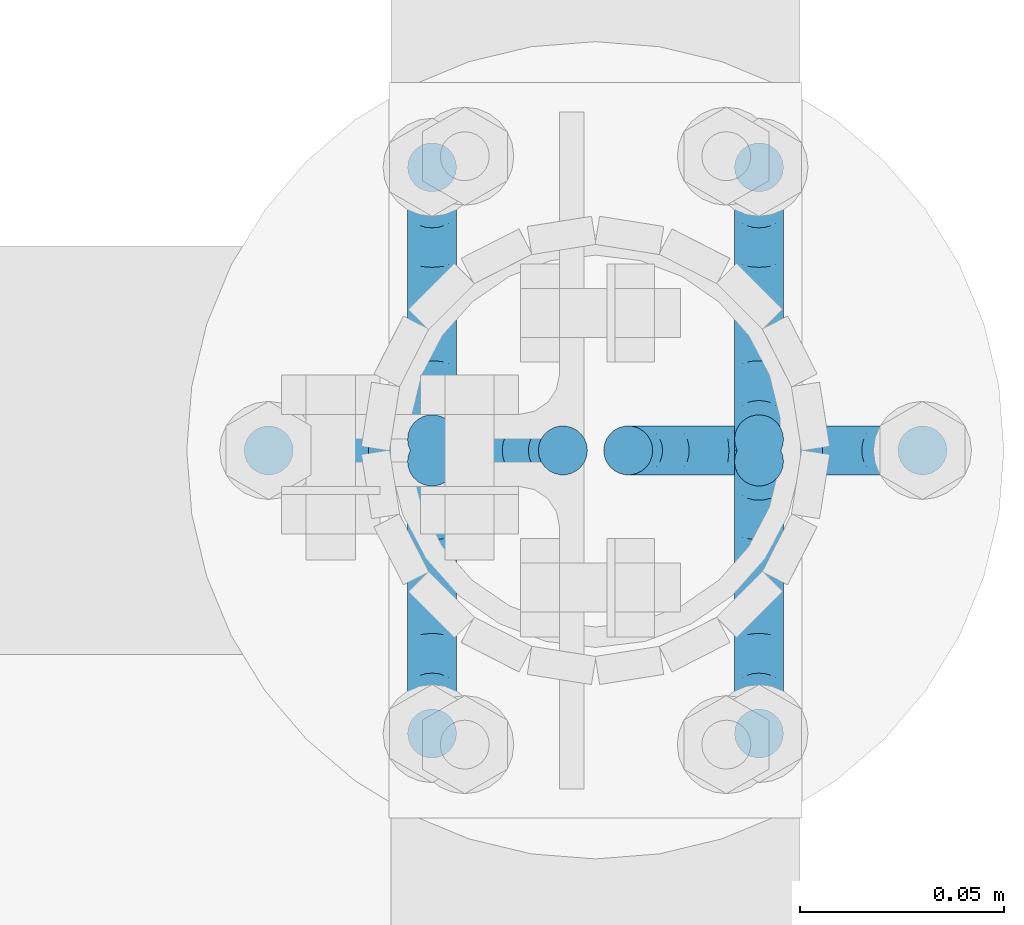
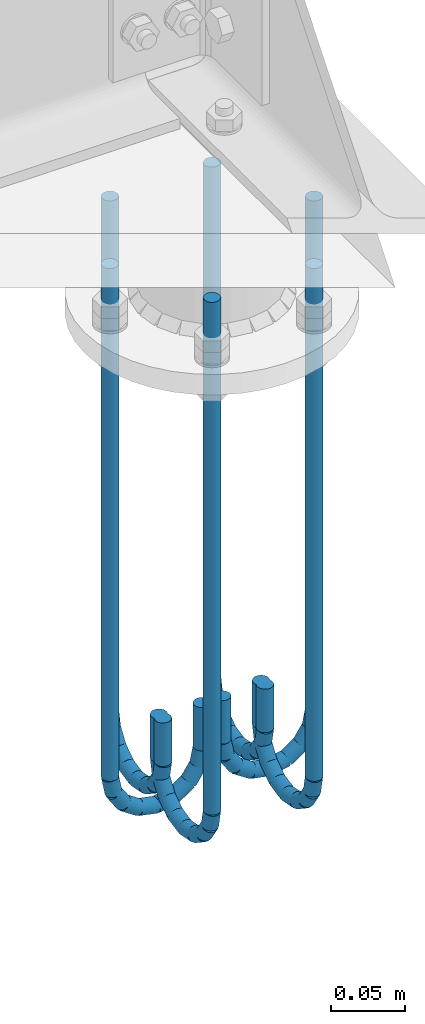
# One storey, part 14 of 84: 3 reinforcing bars.
"""IFC4 building model written with IfcOpenShell, lengths in metres."""

from ifc_helpers import new_model, entity, si_unit, frame, origin_with_axes, place, context, project, spatial, source, transform, mapped, element, save


model = new_model("IFC4")

# Units and contexts
model_context = context("Model", 3, precision=1e-05, world=origin_with_axes())
ifc_project = project(units=[si_unit("LENGTHUNIT", "METRE"), si_unit("AREAUNIT", "SQUARE_METRE"), si_unit("VOLUMEUNIT", "CUBIC_METRE"), si_unit("MASSUNIT", "GRAM", prefix="KILO"), si_unit("TIMEUNIT", "SECOND"), si_unit("PLANEANGLEUNIT", "RADIAN"), si_unit("SOLIDANGLEUNIT", "STERADIAN"), si_unit("THERMODYNAMICTEMPERATUREUNIT", "DEGREE_CELSIUS")], contexts=[model_context])

# Site, building, storey
placement_1 = place(None, origin_with_axes())
site = spatial("IfcSite", under=ifc_project, at=placement_1, Name="Italia", CompositionType="ELEMENT")
building = spatial("IfcBuilding", under=site, at=placement_1, Name="Tettoia", CompositionType="ELEMENT")
storey_placement = place(None, frame((0.0, 0.0, 4.199999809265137), z_axis=(0.0, 0.0, 1.0), x_axis=(1.0, 0.0, 0.0)))
storey = spatial("IfcBuildingStorey", under=building, at=storey_placement, Name="Storey 1", CompositionType="ELEMENT", Elevation=4.199999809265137)

# Reinforcing bars
shared_shape_1 = source(origin_with_axes(), model_context, "Body", "AdvancedSweptSolid", [
    entity("IfcSweptDiskSolid", entity("IfcIndexedPolyCurve", entity("IfcCartesianPointList3D", [[11.21, 13.95, 4.067], [11.21, 13.95, 3.642]]), [entity("IfcLineIndex", [1, 2])], False), 0.006),
])
placement_2 = place(placement_1, origin_with_axes())
reinforcing_bar_1_placement = place(placement_2, origin_with_axes())
element("IfcReinforcingBar", 1, at=reinforcing_bar_1_placement, inside=storey, BarLength=0.425, CrossSectionArea=0.0001131, NominalDiameter=0.012, context=model_context, shape_type="MappedRepresentation", body=[
    mapped(shared_shape_1, transform((0.12, -0.0692825, 0.0), x_axis=(1.0, 0.0, 0.0), y_axis=(0.0, 1.0, 0.0), z_axis=(0.0, 0.0, 1.0), scale=1.0)),
    mapped(shared_shape_1, transform((0.04, -0.0692825, 0.0), x_axis=(1.0, 0.0, 0.0), y_axis=(0.0, 1.0, 0.0), z_axis=(0.0, 0.0, 1.0), scale=1.0)),
    mapped(shared_shape_1, transform((0.0, 0.0, 0.0), x_axis=(1.0, 0.0, 0.0), y_axis=(0.0, 1.0, 0.0), z_axis=(0.0, 0.0, 1.0), scale=1.0)),
    mapped(shared_shape_1, transform((0.04, 0.0692806, 0.0), x_axis=(1.0, 0.0, 0.0), y_axis=(0.0, 1.0, 0.0), z_axis=(0.0, 0.0, 1.0), scale=1.0)),
    mapped(shared_shape_1, transform((0.12, 0.0692806, 0.0), x_axis=(1.0, 0.0, 0.0), y_axis=(0.0, 1.0, 0.0), z_axis=(0.0, 0.0, 1.0), scale=1.0)),
    mapped(shared_shape_1, transform((0.160001, 0.0, 0.0), x_axis=(1.0, 0.0, 0.0), y_axis=(0.0, 1.0, 0.0), z_axis=(0.0, 0.0, 1.0), scale=1.0)),
])
shared_shape_2 = source(origin_with_axes(), model_context, "Body", "AdvancedSweptSolid", [
    entity("IfcSweptDiskSolid", entity("IfcIndexedPolyCurve", entity("IfcCartesianPointList3D", [[11.21, 13.95, 3.642], [11.2127, 13.95, 3.62822]]), [entity("IfcLineIndex", [1, 2])], False), 0.006),
])
reinforcing_bar_2_placement = place(placement_2, origin_with_axes())
element("IfcReinforcingBar", 2, at=reinforcing_bar_2_placement, inside=storey, BarLength=0.0140465, CrossSectionArea=0.0001131, NominalDiameter=0.012, context=model_context, shape_type="MappedRepresentation", body=[
    mapped(shared_shape_2, transform((-2.7, 10.3417, -7.60413), x_axis=(0.0, -3.6642e-05, 1.0), y_axis=(1.0, 0.0, 0.0), z_axis=(0.0, 1.0, 3.6642e-05), scale=1.0)),
    mapped(shared_shape_2, transform((-2.7, 19.3608, -6.88506), x_axis=(0.0, -0.707153, 0.707061), y_axis=(1.0, 0.0, 0.0), z_axis=(0.0, 0.707061, 0.707153), scale=1.0)),
    mapped(shared_shape_2, transform((-2.7, 14.9226, -8.14165), x_axis=(0.0, -0.382719, 0.923865), y_axis=(1.0, 0.0, 0.0), z_axis=(0.0, 0.923865, 0.382719), scale=1.0)),
    mapped(shared_shape_2, transform((-2.62, 19.3608, -6.88506), x_axis=(0.0, -0.707153, 0.707061), y_axis=(1.0, 0.0, 0.0), z_axis=(0.0, 0.707061, 0.707153), scale=1.0)),
    mapped(shared_shape_2, transform((12.2733, 27.9, -8.14165), x_axis=(-0.382719, 0.0, 0.923865), y_axis=(0.0, -1.0, 0.0), z_axis=(0.923865, 0.0, 0.382719), scale=1.0)),
    mapped(shared_shape_2, transform((-2.62, 14.9226, -8.14165), x_axis=(0.0, -0.382719, 0.923865), y_axis=(1.0, 0.0, 0.0), z_axis=(0.0, 0.923865, 0.382719), scale=1.0)),
    mapped(shared_shape_2, transform((7.69241, 27.9, -7.60413), x_axis=(-3.6642e-05, 0.0, 1.0), y_axis=(0.0, -1.0, 0.0), z_axis=(1.0, 0.0, 3.6642e-05), scale=1.0)),
    mapped(shared_shape_2, transform((-2.62, 6.31495, -5.35429), x_axis=(0.0, 0.382674, 0.923883), y_axis=(1.0, 0.0, 0.0), z_axis=(0.0, 0.923883, -0.382674), scale=1.0)),
    mapped(shared_shape_2, transform((-2.62, 10.3417, -7.60413), x_axis=(0.0, -3.6642e-05, 1.0), y_axis=(1.0, 0.0, 0.0), z_axis=(0.0, 1.0, 3.6642e-05), scale=1.0)),
    mapped(shared_shape_2, transform((3.66566, 27.9, -5.35429), x_axis=(0.382674, 0.0, 0.923883), y_axis=(0.0, -1.0, 0.0), z_axis=(0.923883, 0.0, -0.382674), scale=1.0)),
    mapped(shared_shape_2, transform((-2.7, 22.9797, -4.02617), x_axis=(0.0, -0.923891, 0.382657), y_axis=(1.0, 0.0, 0.0), z_axis=(0.0, 0.382657, 0.923891), scale=1.0)),
    mapped(shared_shape_2, transform((-2.7, 25.2295, 0.000746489), x_axis=(0.0, -1.0, -6.66231e-05), y_axis=(1.0, 0.0, 0.0), z_axis=(0.0, -6.66231e-05, 1.0), scale=1.0)),
    mapped(shared_shape_2, transform((-2.7, 6.31495, -5.35429), x_axis=(0.0, 0.382674, 0.923883), y_axis=(1.0, 0.0, 0.0), z_axis=(0.0, 0.923883, -0.382674), scale=1.0)),
    mapped(shared_shape_2, transform((-2.62, 22.9797, -4.02617), x_axis=(0.0, -0.923891, 0.382657), y_axis=(1.0, 0.0, 0.0), z_axis=(0.0, 0.382657, 0.923891), scale=1.0)),
    mapped(shared_shape_2, transform((-2.62, 3.45643, -1.73591), x_axis=(0.0, 0.707034, 0.707179), y_axis=(1.0, 0.0, 0.0), z_axis=(0.0, 0.707179, -0.707034), scale=1.0)),
    mapped(shared_shape_2, transform((-2.7, 3.45643, -1.73591), x_axis=(0.0, 0.707034, 0.707179), y_axis=(1.0, 0.0, 0.0), z_axis=(0.0, 0.707179, -0.707034), scale=1.0)),
    mapped(shared_shape_2, transform((0.806539, 27.9, -1.73473), x_axis=(0.707114, 0.0, 0.707099), y_axis=(0.0, -1.0, 0.0), z_axis=(0.707099, 0.0, -0.707114), scale=1.0)),
    mapped(shared_shape_2, transform((-2.62, 25.2295, 0.000746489), x_axis=(0.0, -1.0, -6.66231e-05), y_axis=(1.0, 0.0, 0.0), z_axis=(0.0, -6.66231e-05, 1.0), scale=1.0)),
    mapped(shared_shape_2, transform((-0.449615, 27.9, 2.70227), x_axis=(0.923852, 0.0, 0.382749), y_axis=(0.0, -1.0, 0.0), z_axis=(0.382749, 0.0, -0.923852), scale=1.0)),
    mapped(shared_shape_2, transform((21.7735, 0.0, -1.73473), x_axis=(-0.707114, 0.0, 0.707099), y_axis=(0.0, 1.0, 0.0), z_axis=(-0.707099, 0.0, -0.707114), scale=1.0)),
    mapped(shared_shape_2, transform((-2.7, 2.1996, 2.70305), x_axis=(0.0, 0.923878, 0.382688), y_axis=(1.0, 0.0, 0.0), z_axis=(0.0, 0.382688, -0.923878), scale=1.0)),
    mapped(shared_shape_2, transform((23.0296, 0.0, 2.70227), x_axis=(-0.923852, 0.0, 0.382749), y_axis=(0.0, 1.0, 0.0), z_axis=(-0.382749, 0.0, -0.923852), scale=1.0)),
    mapped(shared_shape_2, transform((-2.62, 2.1996, 2.70305), x_axis=(0.0, 0.923878, 0.382688), y_axis=(1.0, 0.0, 0.0), z_axis=(0.0, 0.382688, -0.923878), scale=1.0)),
    mapped(shared_shape_2, transform((25.2, 12.9774, -8.14165), x_axis=(0.0, 0.382719, 0.923865), y_axis=(-1.0, 0.0, 0.0), z_axis=(0.0, -0.923865, 0.382719), scale=1.0)),
    mapped(shared_shape_2, transform((14.8876, 0.0, -7.60413), x_axis=(3.6642e-05, 0.0, 1.0), y_axis=(0.0, 1.0, 0.0), z_axis=(-1.0, 0.0, 3.6642e-05), scale=1.0)),
    mapped(shared_shape_2, transform((5.86888, 0.0, -6.88526), x_axis=(0.707126, 0.0, 0.707088), y_axis=(0.0, 1.0, 0.0), z_axis=(-0.707088, 0.0, 0.707126), scale=1.0)),
    mapped(shared_shape_2, transform((2.24956, 0.0, -4.02617), x_axis=(0.923891, 0.0, 0.382657), y_axis=(0.0, 1.0, 0.0), z_axis=(-0.382657, 0.0, 0.923891), scale=1.0)),
    mapped(shared_shape_2, transform((10.3067, 0.0, -8.14165), x_axis=(0.382719, 0.0, 0.923865), y_axis=(0.0, 1.0, 0.0), z_axis=(-0.923865, 0.0, 0.382719), scale=1.0)),
    mapped(shared_shape_2, transform((16.7111, 27.9, -6.88526), x_axis=(-0.707126, 0.0, 0.707088), y_axis=(0.0, -1.0, 0.0), z_axis=(0.707088, 0.0, 0.707126), scale=1.0)),
    mapped(shared_shape_2, transform((25.2, 21.5851, -5.35429), x_axis=(0.0, -0.382674, 0.923883), y_axis=(-1.0, 0.0, 0.0), z_axis=(0.0, -0.923883, -0.382674), scale=1.0)),
    mapped(shared_shape_2, transform((25.28, 17.5583, -7.60413), x_axis=(0.0, 3.6642e-05, 1.0), y_axis=(-1.0, 0.0, 0.0), z_axis=(0.0, -1.0, 3.6642e-05), scale=1.0)),
    mapped(shared_shape_2, transform((25.2, 8.5392, -6.88506), x_axis=(0.0, 0.707153, 0.707061), y_axis=(-1.0, 0.0, 0.0), z_axis=(0.0, -0.707061, 0.707153), scale=1.0)),
    mapped(shared_shape_2, transform((25.28, 8.5392, -6.88506), x_axis=(0.0, 0.707153, 0.707061), y_axis=(-1.0, 0.0, 0.0), z_axis=(0.0, -0.707061, 0.707153), scale=1.0)),
    mapped(shared_shape_2, transform((25.2, 17.5583, -7.60413), x_axis=(0.0, 3.6642e-05, 1.0), y_axis=(-1.0, 0.0, 0.0), z_axis=(0.0, -1.0, 3.6642e-05), scale=1.0)),
    mapped(shared_shape_2, transform((25.28, 21.5851, -5.35429), x_axis=(0.0, -0.382674, 0.923883), y_axis=(-1.0, 0.0, 0.0), z_axis=(0.0, -0.923883, -0.382674), scale=1.0)),
    mapped(shared_shape_2, transform((18.9143, 0.0, -5.35429), x_axis=(-0.382674, 0.0, 0.923883), y_axis=(0.0, 1.0, 0.0), z_axis=(-0.923883, 0.0, -0.382674), scale=1.0)),
    mapped(shared_shape_2, transform((22.58, 27.9, 0.0), x_axis=(-1.0, 0.0, 0.0), y_axis=(0.0, -1.0, 0.0), z_axis=(0.0, 0.0, 1.0), scale=1.0)),
    mapped(shared_shape_2, transform((20.3304, 27.9, -4.02617), x_axis=(-0.923891, 0.0, 0.382657), y_axis=(0.0, -1.0, 0.0), z_axis=(0.382657, 0.0, 0.923891), scale=1.0)),
    mapped(shared_shape_2, transform((25.2, 24.4436, -1.73591), x_axis=(0.0, -0.707034, 0.707179), y_axis=(-1.0, 0.0, 0.0), z_axis=(0.0, -0.707179, -0.707034), scale=1.0)),
    mapped(shared_shape_2, transform((25.2, 4.92028, -4.02617), x_axis=(0.0, 0.923891, 0.382657), y_axis=(-1.0, 0.0, 0.0), z_axis=(0.0, -0.382657, 0.923891), scale=1.0)),
    mapped(shared_shape_2, transform((25.28, 24.4436, -1.73591), x_axis=(0.0, -0.707034, 0.707179), y_axis=(-1.0, 0.0, 0.0), z_axis=(0.0, -0.707179, -0.707034), scale=1.0)),
    mapped(shared_shape_2, transform((25.28, 4.92028, -4.02617), x_axis=(0.0, 0.923891, 0.382657), y_axis=(-1.0, 0.0, 0.0), z_axis=(0.0, -0.382657, 0.923891), scale=1.0)),
    mapped(shared_shape_2, transform((25.28, 12.9774, -8.14165), x_axis=(0.0, 0.382719, 0.923865), y_axis=(-1.0, 0.0, 0.0), z_axis=(0.0, -0.923865, 0.382719), scale=1.0)),
    mapped(shared_shape_2, transform((0.0, 0.0, 0.0), x_axis=(1.0, 0.0, 0.0), y_axis=(0.0, 1.0, 0.0), z_axis=(0.0, 0.0, 1.0), scale=1.0)),
    mapped(shared_shape_2, transform((25.2, 25.7004, 2.70305), x_axis=(0.0, -0.923878, 0.382688), y_axis=(-1.0, 0.0, 0.0), z_axis=(0.0, -0.382688, -0.923878), scale=1.0)),
    mapped(shared_shape_2, transform((25.28, 2.67048, 0.000746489), x_axis=(0.0, 1.0, -6.66231e-05), y_axis=(-1.0, 0.0, 0.0), z_axis=(0.0, 6.66231e-05, 1.0), scale=1.0)),
    mapped(shared_shape_2, transform((25.2, 2.67048, 0.000746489), x_axis=(0.0, 1.0, -6.66231e-05), y_axis=(-1.0, 0.0, 0.0), z_axis=(0.0, 6.66231e-05, 1.0), scale=1.0)),
    mapped(shared_shape_2, transform((25.28, 25.7004, 2.70305), x_axis=(0.0, -0.923878, 0.382688), y_axis=(-1.0, 0.0, 0.0), z_axis=(0.0, -0.382688, -0.923878), scale=1.0)),
])
shared_shape_3 = source(origin_with_axes(), model_context, "Body", "AdvancedSweptSolid", [
    entity("IfcSweptDiskSolid", entity("IfcIndexedPolyCurve", entity("IfcCartesianPointList3D", [[11.282, 13.95, 3.642], [11.282, 13.95, 3.678]]), [entity("IfcLineIndex", [1, 2])], False), 0.006),
])
reinforcing_bar_3_placement = place(placement_2, origin_with_axes())
element("IfcReinforcingBar", 3, at=reinforcing_bar_3_placement, inside=storey, BarLength=0.0359998, CrossSectionArea=0.0001131, NominalDiameter=0.012, context=model_context, shape_type="MappedRepresentation", body=[
    mapped(shared_shape_3, transform((0.0480003, 0.00271702, 0.0), x_axis=(1.0, 0.0, 0.0), y_axis=(0.0, 1.0, 0.0), z_axis=(0.0, 0.0, 1.0), scale=1.0)),
    mapped(shared_shape_3, transform((-0.0319996, 0.00271702, 0.0), x_axis=(1.0, 0.0, 0.0), y_axis=(0.0, 1.0, 0.0), z_axis=(0.0, 0.0, 1.0), scale=1.0)),
    mapped(shared_shape_3, transform((0.0, 0.0, 0.0), x_axis=(1.0, 0.0, 0.0), y_axis=(0.0, 1.0, 0.0), z_axis=(0.0, 0.0, 1.0), scale=1.0)),
    mapped(shared_shape_3, transform((-0.0319996, -0.00271893, 0.0), x_axis=(1.0, 0.0, 0.0), y_axis=(0.0, 1.0, 0.0), z_axis=(0.0, 0.0, 1.0), scale=1.0)),
    mapped(shared_shape_3, transform((0.0480003, -0.00271893, 0.0), x_axis=(1.0, 0.0, 0.0), y_axis=(0.0, 1.0, 0.0), z_axis=(0.0, 0.0, 1.0), scale=1.0)),
    mapped(shared_shape_3, transform((0.0160007, 0.0, 0.0), x_axis=(1.0, 0.0, 0.0), y_axis=(0.0, 1.0, 0.0), z_axis=(0.0, 0.0, 1.0), scale=1.0)),
])

save(model, "model.ifc")
